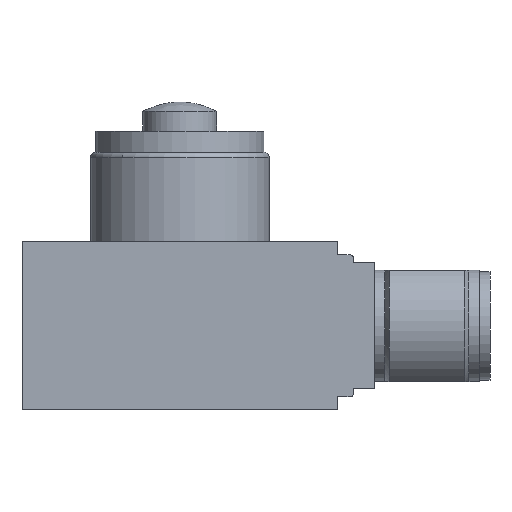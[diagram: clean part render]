
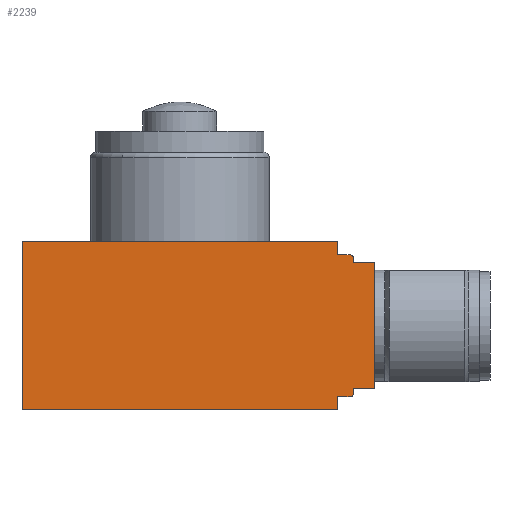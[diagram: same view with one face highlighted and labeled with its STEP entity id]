
A CAD part, front view. The second image highlights one B-rep face of the part: STEP entity #2239.
In plain terms, the highlighted planar face has unit normal (0, -1, 0) as drawn and (0, 0, -1) by its records, which use the part's own axes.
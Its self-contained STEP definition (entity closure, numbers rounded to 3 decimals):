
#49=LINE('',#3348,#237);
#57=LINE('',#3363,#245);
#89=LINE('',#3466,#277);
#105=LINE('',#3511,#293);
#121=LINE('',#3544,#309);
#122=LINE('',#3547,#310);
#123=LINE('',#3551,#311);
#124=LINE('',#3553,#312);
#125=LINE('',#3555,#313);
#126=LINE('',#3557,#314);
#127=LINE('',#3559,#315);
#128=LINE('',#3562,#316);
#237=VECTOR('',#2658,1.25);
#245=VECTOR('',#2666,1.25);
#277=VECTOR('',#2770,30.);
#293=VECTOR('',#2814,16.);
#309=VECTOR('',#2852,30.);
#310=VECTOR('',#2855,1.2);
#311=VECTOR('',#2858,0.45);
#312=VECTOR('',#2859,2.);
#313=VECTOR('',#2860,12.);
#314=VECTOR('',#2861,2.);
#315=VECTOR('',#2862,0.45);
#316=VECTOR('',#2865,1.2);
#455=PLANE('',#2426);
#593=FACE_OUTER_BOUND('',#744,.T.);
#744=EDGE_LOOP('',(#1710,#1711,#1712,#1713,#1714,#1715,#1716,#1717,#1718,
#1719,#1720,#1721,#1722,#1723));
#892=CIRCLE('',#2427,0.3);
#893=CIRCLE('',#2428,0.3);
#969=VERTEX_POINT('',#3340);
#972=VERTEX_POINT('',#3345);
#973=VERTEX_POINT('',#3347);
#980=VERTEX_POINT('',#3361);
#1015=VERTEX_POINT('',#3464);
#1030=VERTEX_POINT('',#3509);
#1037=VERTEX_POINT('',#3546);
#1038=VERTEX_POINT('',#3548);
#1039=VERTEX_POINT('',#3550);
#1040=VERTEX_POINT('',#3552);
#1041=VERTEX_POINT('',#3554);
#1042=VERTEX_POINT('',#3556);
#1043=VERTEX_POINT('',#3558);
#1044=VERTEX_POINT('',#3560);
#1191=EDGE_CURVE('',#973,#972,#49,.T.);
#1199=EDGE_CURVE('',#969,#980,#57,.T.);
#1248=EDGE_CURVE('',#980,#1015,#89,.T.);
#1270=EDGE_CURVE('',#1030,#1015,#105,.T.);
#1287=EDGE_CURVE('',#1030,#973,#121,.T.);
#1288=EDGE_CURVE('',#972,#1037,#122,.T.);
#1289=EDGE_CURVE('',#1037,#1038,#892,.T.);
#1290=EDGE_CURVE('',#1038,#1039,#123,.T.);
#1291=EDGE_CURVE('',#1039,#1040,#124,.T.);
#1292=EDGE_CURVE('',#1041,#1040,#125,.T.);
#1293=EDGE_CURVE('',#1042,#1041,#126,.T.);
#1294=EDGE_CURVE('',#1043,#1042,#127,.T.);
#1295=EDGE_CURVE('',#1044,#1043,#893,.T.);
#1296=EDGE_CURVE('',#969,#1044,#128,.T.);
#1710=ORIENTED_EDGE('',*,*,#1288,.T.);
#1711=ORIENTED_EDGE('',*,*,#1289,.T.);
#1712=ORIENTED_EDGE('',*,*,#1290,.T.);
#1713=ORIENTED_EDGE('',*,*,#1291,.T.);
#1714=ORIENTED_EDGE('',*,*,#1292,.F.);
#1715=ORIENTED_EDGE('',*,*,#1293,.F.);
#1716=ORIENTED_EDGE('',*,*,#1294,.F.);
#1717=ORIENTED_EDGE('',*,*,#1295,.F.);
#1718=ORIENTED_EDGE('',*,*,#1296,.F.);
#1719=ORIENTED_EDGE('',*,*,#1199,.T.);
#1720=ORIENTED_EDGE('',*,*,#1248,.T.);
#1721=ORIENTED_EDGE('',*,*,#1270,.F.);
#1722=ORIENTED_EDGE('',*,*,#1287,.T.);
#1723=ORIENTED_EDGE('',*,*,#1191,.T.);
#2239=ADVANCED_FACE('',(#593),#455,.F.);
#2426=AXIS2_PLACEMENT_3D('',#3545,#2853,#2854);
#2427=AXIS2_PLACEMENT_3D('',#3549,#2856,#2857);
#2428=AXIS2_PLACEMENT_3D('',#3561,#2863,#2864);
#2658=DIRECTION('',(0.,-1.,0.));
#2666=DIRECTION('',(0.,-1.,0.));
#2770=DIRECTION('',(-1.,0.,0.));
#2814=DIRECTION('',(0.,-1.,0.));
#2852=DIRECTION('',(1.,0.,0.));
#2853=DIRECTION('center_axis',(0.,0.,1.));
#2854=DIRECTION('ref_axis',(1.,0.,0.));
#2855=DIRECTION('',(1.,0.,0.));
#2856=DIRECTION('center_axis',(0.,0.,-1.));
#2857=DIRECTION('ref_axis',(0.707,0.707,0.));
#2858=DIRECTION('',(0.,-1.,0.));
#2859=DIRECTION('',(1.,0.,0.));
#2860=DIRECTION('',(0.,1.,0.));
#2861=DIRECTION('',(1.,0.,0.));
#2862=DIRECTION('',(0.,1.,0.));
#2863=DIRECTION('center_axis',(0.,0.,1.));
#2864=DIRECTION('ref_axis',(0.707,-0.707,0.));
#2865=DIRECTION('',(1.,0.,0.));
#3340=CARTESIAN_POINT('',(15.,-14.75,-43.));
#3345=CARTESIAN_POINT('',(15.,-1.25,-43.));
#3347=CARTESIAN_POINT('',(15.,0.,-43.));
#3348=CARTESIAN_POINT('',(15.,0.,-43.));
#3361=CARTESIAN_POINT('',(15.,-16.,-43.));
#3363=CARTESIAN_POINT('',(15.,-14.75,-43.));
#3464=CARTESIAN_POINT('',(-15.,-16.,-43.));
#3466=CARTESIAN_POINT('',(15.,-16.,-43.));
#3509=CARTESIAN_POINT('',(-15.,0.,-43.));
#3511=CARTESIAN_POINT('',(-15.,0.,-43.));
#3544=CARTESIAN_POINT('',(-15.,0.,-43.));
#3545=CARTESIAN_POINT('Origin',(1.75,-16.,-43.));
#3546=CARTESIAN_POINT('',(16.2,-1.25,-43.));
#3547=CARTESIAN_POINT('',(15.,-1.25,-43.));
#3548=CARTESIAN_POINT('',(16.5,-1.55,-43.));
#3549=CARTESIAN_POINT('Origin',(16.2,-1.55,-43.));
#3550=CARTESIAN_POINT('',(16.5,-2.,-43.));
#3551=CARTESIAN_POINT('',(16.5,-1.55,-43.));
#3552=CARTESIAN_POINT('',(18.5,-2.,-43.));
#3553=CARTESIAN_POINT('',(16.5,-2.,-43.));
#3554=CARTESIAN_POINT('',(18.5,-14.,-43.));
#3555=CARTESIAN_POINT('',(18.5,-14.,-43.));
#3556=CARTESIAN_POINT('',(16.5,-14.,-43.));
#3557=CARTESIAN_POINT('',(16.5,-14.,-43.));
#3558=CARTESIAN_POINT('',(16.5,-14.45,-43.));
#3559=CARTESIAN_POINT('',(16.5,-14.45,-43.));
#3560=CARTESIAN_POINT('',(16.2,-14.75,-43.));
#3561=CARTESIAN_POINT('Origin',(16.2,-14.45,-43.));
#3562=CARTESIAN_POINT('',(15.,-14.75,-43.));
